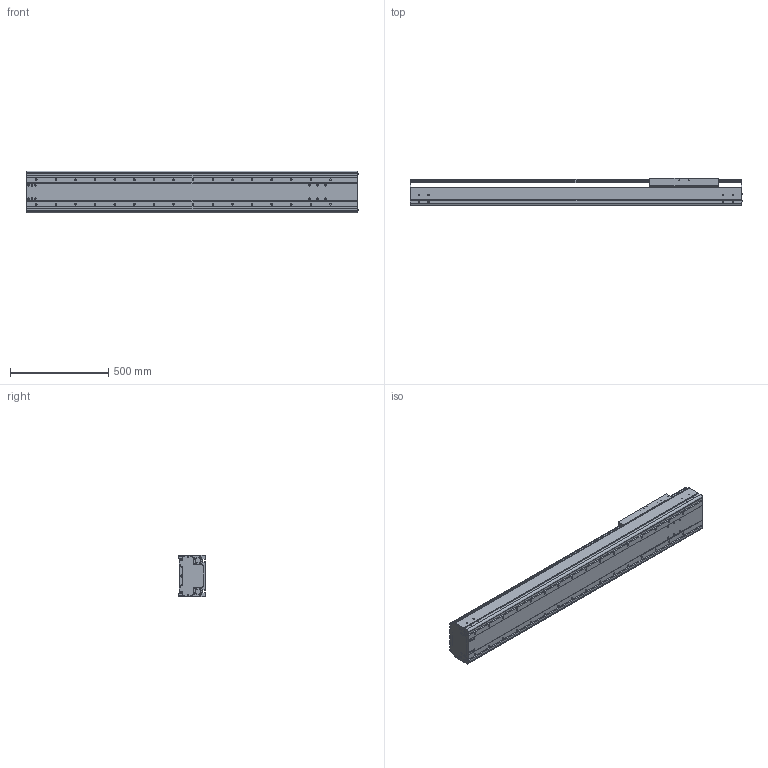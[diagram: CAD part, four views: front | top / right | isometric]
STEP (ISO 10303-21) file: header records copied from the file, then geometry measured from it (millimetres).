
FILE_DESCRIPTION((''),'2;1');
FILE_NAME('BE60J-ST-L_N-B5_IGS_PRT','2017-06-18T',(' '),(''),'PRO/ENGINEER BY PARAMETRIC TECHNOLOGY CORPORATION, 2015030','PRO/ENGINEER BY PARAMETRIC TECHNOLOGY CORPORATION, 2015030','');
FILE_SCHEMA(('CONFIG_CONTROL_DESIGN'));
Length unit declared in the file: millimetre
Products named in the file (1): BE60J-ST-L_N-B5_IGS_PRT
Bounding box: 1692.4 x 140 x 214 mm (x, y, z)
Volume: 13310714 mm3; surface area: 3610632.3 mm2
Topology: 2 solids, 126 shells, 1523 faces, 4288 edges, 2862 vertices
Faces by surface type: cylinder 800, plane 615, cone 60, sphere 24, torus 24
Entity records: 51386 total; most frequent: CARTESIAN_POINT 11527, DIRECTION 8312, ORIENTED_EDGE 7976, EDGE_CURVE 4232, AXIS2_PLACEMENT_3D 3108, VERTEX_POINT 2862, VECTOR 2096, LINE 2096
